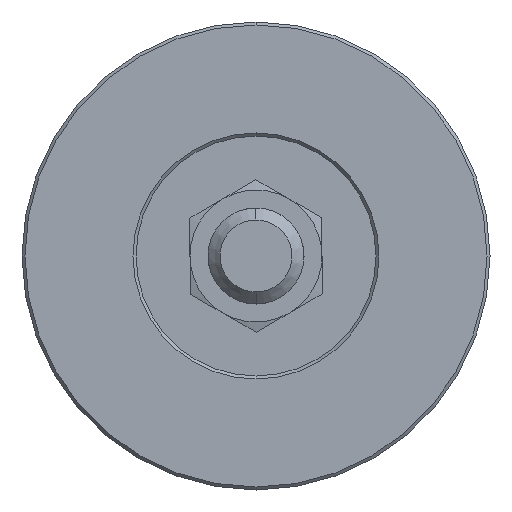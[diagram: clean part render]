
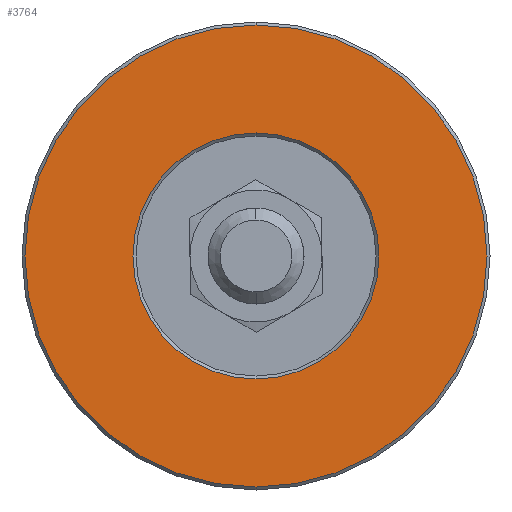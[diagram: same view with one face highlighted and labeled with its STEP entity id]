
A CAD part, front view. The second image highlights one B-rep face of the part: STEP entity #3764.
In plain terms, the highlighted planar face has unit normal (0, -1, 0).
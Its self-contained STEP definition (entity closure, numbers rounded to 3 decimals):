
#286 = EDGE_LOOP ( 'NONE', ( #8183, #7828 ) ) ;
#376 = VERTEX_POINT ( 'NONE', #6080 ) ;
#753 = CIRCLE ( 'NONE', #6384, 38.5 ) ;
#901 = AXIS2_PLACEMENT_3D ( 'NONE', #2558, #4465, #8372 ) ;
#970 = FACE_BOUND ( 'NONE', #2084, .T. ) ;
#1182 = CARTESIAN_POINT ( 'NONE',  ( 0., 0., 0. ) ) ;
#1193 = CIRCLE ( 'NONE', #3509, 20.5 ) ;
#1592 = VERTEX_POINT ( 'NONE', #7332 ) ;
#1745 = DIRECTION ( 'NONE',  ( 0., 0., -1. ) ) ;
#1878 = FACE_OUTER_BOUND ( 'NONE', #286, .T. ) ;
#1975 = CARTESIAN_POINT ( 'NONE',  ( 0., 0., -38.5 ) ) ;
#2084 = EDGE_LOOP ( 'NONE', ( #6963, #5516 ) ) ;
#2304 = CARTESIAN_POINT ( 'NONE',  ( 0., 0., -20.5 ) ) ;
#2320 = EDGE_CURVE ( 'NONE', #376, #4727, #1193, .T. ) ;
#2558 = CARTESIAN_POINT ( 'NONE',  ( 0., 0., 0. ) ) ;
#3119 = DIRECTION ( 'NONE',  ( 0., 1., 0. ) ) ;
#3253 = CIRCLE ( 'NONE', #901, 38.5 ) ;
#3509 = AXIS2_PLACEMENT_3D ( 'NONE', #1182, #3119, #5719 ) ;
#3661 = DIRECTION ( 'NONE',  ( 0., -1., 0. ) ) ;
#3764 = ADVANCED_FACE ( 'NONE', ( #1878, #970 ), #4495, .T. ) ;
#4465 = DIRECTION ( 'NONE',  ( 0., -1., 0. ) ) ;
#4495 = PLANE ( 'NONE',  #7428 ) ;
#4552 = EDGE_CURVE ( 'NONE', #1592, #7890, #753, .T. ) ;
#4727 = VERTEX_POINT ( 'NONE', #2304 ) ;
#5007 = CIRCLE ( 'NONE', #5929, 20.5 ) ;
#5516 = ORIENTED_EDGE ( 'NONE', *, *, #2320, .T. ) ;
#5719 = DIRECTION ( 'NONE',  ( 0., 0., -1. ) ) ;
#5733 = DIRECTION ( 'NONE',  ( 0., -1., 0. ) ) ;
#5929 = AXIS2_PLACEMENT_3D ( 'NONE', #6888, #6360, #8246 ) ;
#6080 = CARTESIAN_POINT ( 'NONE',  ( 0., 0., 20.5 ) ) ;
#6207 = EDGE_CURVE ( 'NONE', #4727, #376, #5007, .T. ) ;
#6360 = DIRECTION ( 'NONE',  ( 0., 1., 0. ) ) ;
#6384 = AXIS2_PLACEMENT_3D ( 'NONE', #6957, #3661, #1745 ) ;
#6468 = CARTESIAN_POINT ( 'NONE',  ( 20., 0., 0. ) ) ;
#6888 = CARTESIAN_POINT ( 'NONE',  ( 0., 0., 0. ) ) ;
#6957 = CARTESIAN_POINT ( 'NONE',  ( 0., 0., 0. ) ) ;
#6963 = ORIENTED_EDGE ( 'NONE', *, *, #6207, .T. ) ;
#7332 = CARTESIAN_POINT ( 'NONE',  ( 0., 0., 38.5 ) ) ;
#7428 = AXIS2_PLACEMENT_3D ( 'NONE', #6468, #5733, #8275 ) ;
#7682 = EDGE_CURVE ( 'NONE', #7890, #1592, #3253, .T. ) ;
#7828 = ORIENTED_EDGE ( 'NONE', *, *, #7682, .T. ) ;
#7890 = VERTEX_POINT ( 'NONE', #1975 ) ;
#8183 = ORIENTED_EDGE ( 'NONE', *, *, #4552, .T. ) ;
#8246 = DIRECTION ( 'NONE',  ( 0., 0., -1. ) ) ;
#8275 = DIRECTION ( 'NONE',  ( 0., 0., -1. ) ) ;
#8372 = DIRECTION ( 'NONE',  ( 0., 0., -1. ) ) ;
